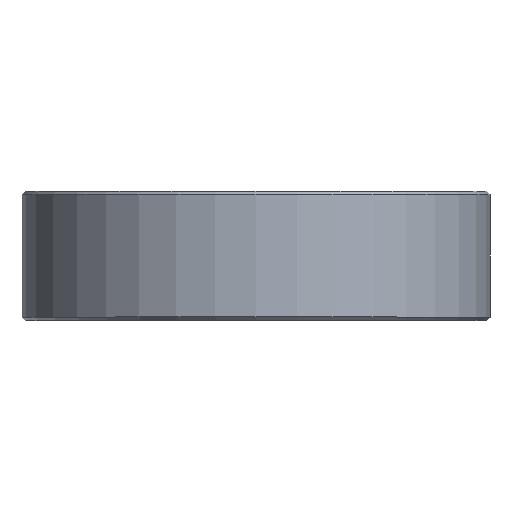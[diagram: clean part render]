
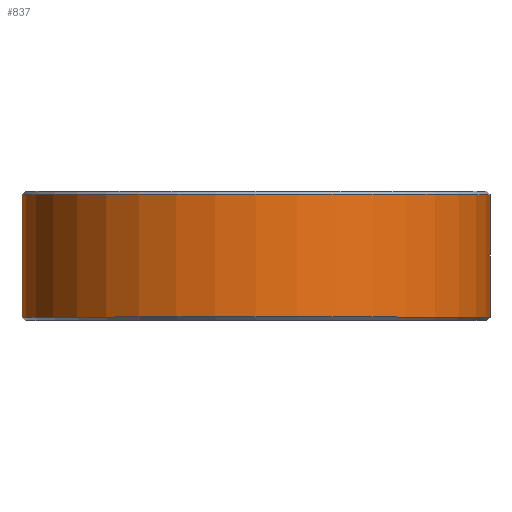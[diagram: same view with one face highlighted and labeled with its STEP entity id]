
A CAD part, top view. The second image highlights one B-rep face of the part: STEP entity #837.
In plain terms, the highlighted cylindrical face has radius 14.5 mm (diameter 29 mm), a partial arc.
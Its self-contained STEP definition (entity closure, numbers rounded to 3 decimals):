
#59=DIRECTION('',(0.,-1.,0.));
#60=VECTOR('',#59,7.6);
#61=CARTESIAN_POINT('',(-14.5,7.8,0.));
#62=LINE('',#61,#60);
#159=CARTESIAN_POINT('',(0.,0.2,0.));
#160=DIRECTION('',(0.,-1.,0.));
#161=DIRECTION('',(1.,0.,0.));
#162=AXIS2_PLACEMENT_3D('',#159,#160,#161);
#164=CARTESIAN_POINT('',(0.,7.8,0.));
#165=DIRECTION('',(0.,1.,0.));
#166=DIRECTION('',(-1.,0.,0.));
#167=AXIS2_PLACEMENT_3D('',#164,#165,#166);
#169=DIRECTION('',(0.,-1.,0.));
#170=VECTOR('',#169,7.6);
#171=CARTESIAN_POINT('',(14.5,7.8,0.));
#172=LINE('',#171,#170);
#618=CARTESIAN_POINT('',(14.5,7.8,0.));
#619=VERTEX_POINT('',#618);
#620=CARTESIAN_POINT('',(-14.5,7.8,0.));
#621=VERTEX_POINT('',#620);
#622=CARTESIAN_POINT('',(14.5,0.2,0.));
#623=VERTEX_POINT('',#622);
#624=CARTESIAN_POINT('',(-14.5,0.2,0.));
#625=VERTEX_POINT('',#624);
#825=CARTESIAN_POINT('',(0.,0.,0.));
#826=DIRECTION('',(0.,1.,0.));
#827=DIRECTION('',(1.,0.,0.));
#828=AXIS2_PLACEMENT_3D('',#825,#826,#827);
#829=CYLINDRICAL_SURFACE('',#828,14.5);
#830=ORIENTED_EDGE('',*,*,#735,.T.);
#831=ORIENTED_EDGE('',*,*,#766,.F.);
#833=ORIENTED_EDGE('',*,*,#832,.T.);
#834=ORIENTED_EDGE('',*,*,#762,.T.);
#835=EDGE_LOOP('',(#830,#831,#833,#834));
#836=FACE_OUTER_BOUND('',#835,.F.);
#837=ADVANCED_FACE('',(#836),#829,.T.);
#163=CIRCLE('',#162,14.5);
#168=CIRCLE('',#167,14.5);
#735=EDGE_CURVE('',#623,#625,#163,.T.);
#762=EDGE_CURVE('',#619,#623,#172,.T.);
#766=EDGE_CURVE('',#621,#625,#62,.T.);
#832=EDGE_CURVE('',#621,#619,#168,.T.);
